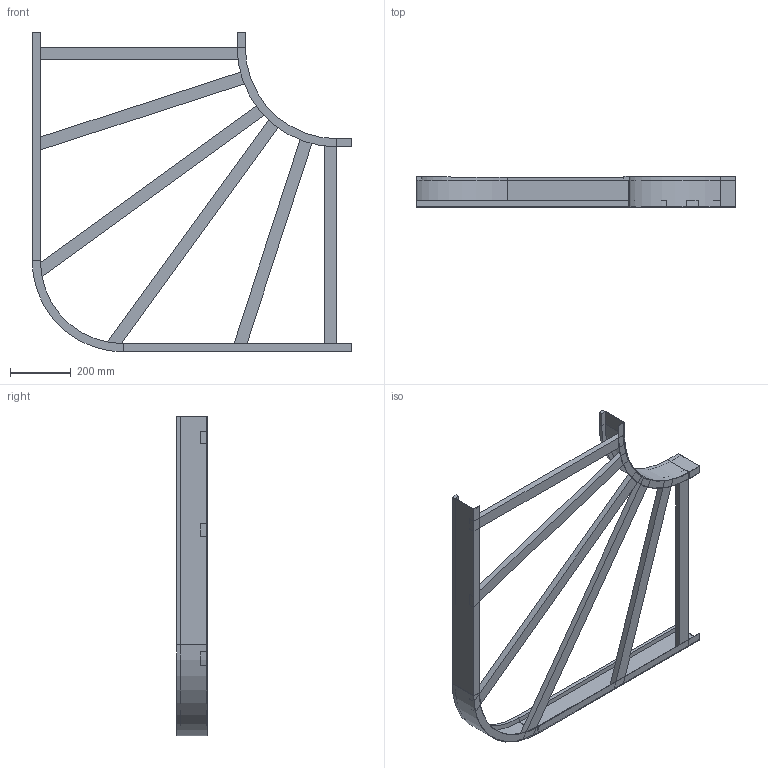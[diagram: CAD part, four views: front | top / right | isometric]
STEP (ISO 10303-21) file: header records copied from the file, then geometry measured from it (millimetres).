
FILE_DESCRIPTION (( 'STEP AP214' ), '1' );
FILE_NAME ('B2_10B3D700.step', '2025-02-21T15:23:42', ( '' ), ( '' ), 'SwSTEP 2.0', 'SolidWorks 2023', '' );
FILE_SCHEMA (( 'AUTOMOTIVE_DESIGN' ));
Length unit declared in the file: millimetre
Products named in the file (6): B2_10B3D700; TRAVERSINO_995_SCANTONATO; B2_LONGH.ESTERNO 90°_H100_R300+700; B2_LONGH.INTERNO 90°_H100_R300; TRAVERSINO_700; TRAVERSINO_786_SCANTONATO
Assembly tree (8 placements, depth 2):
  B2_10B3D700
    B2_LONGH.INTERNO 90°_H100_R300
    B2_LONGH.ESTERNO 90°_H100_R300+700
    TRAVERSINO_700  x2
    TRAVERSINO_786_SCANTONATO  x2
    TRAVERSINO_995_SCANTONATO  x2
Bounding box: 1050 x 100 x 1050 mm (x, y, z)
Volume: 4984742.3 mm3; surface area: 1315678.2 mm2
Topology: 8 solids, 8 shells, 88 faces, 184 edges, 112 vertices
Faces by surface type: plane 80, cylinder 8
Entity records: 2023 total; most frequent: DIRECTION 326, CARTESIAN_POINT 317, ORIENTED_EDGE 296, EDGE_CURVE 148, LINE 132, VECTOR 132, AXIS2_PLACEMENT_3D 97, VERTEX_POINT 88
